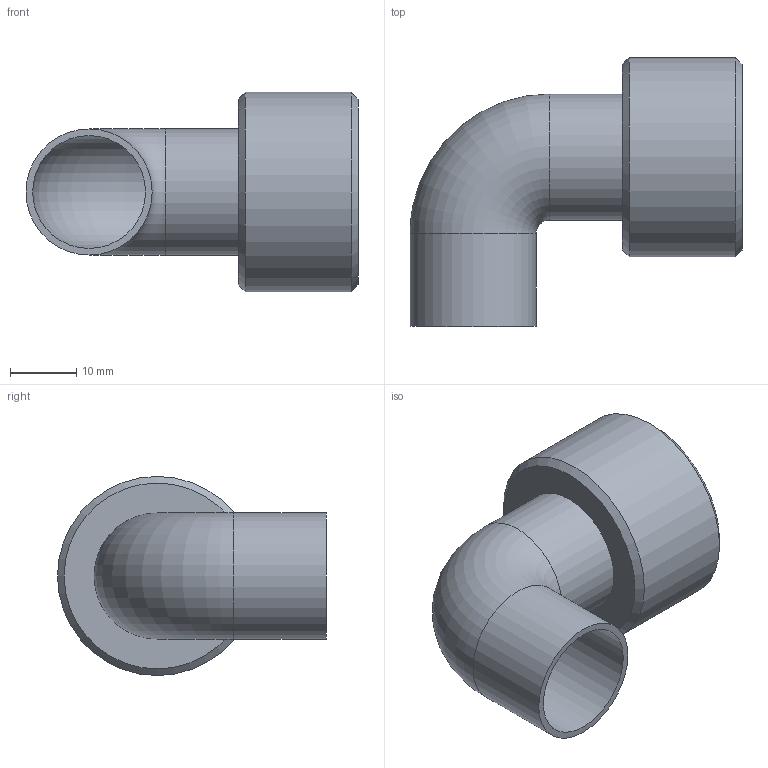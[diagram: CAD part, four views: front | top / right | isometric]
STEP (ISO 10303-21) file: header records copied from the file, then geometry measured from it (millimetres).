
FILE_DESCRIPTION( ( 'STEP AP203' ), '1' );
FILE_NAME( 'C:/Temp/Ganter_Step_05_03_2020/data/3_5/gn880_1/gn880_1_ans/gn880_1_c/Connector piece withot drain hose GN 880.1-26-C.stp', '2020-03-12T13:42:26', ( 'License CC BY-ND 4.0' ), ( 'CADENAS' ), ' ', 'PARTsolutions', ' ' );
FILE_SCHEMA( ( 'CONFIG_CONTROL_DESIGN' ) );
Length unit declared in the file: millimetre
Products named in the file (3): Connector piece withot drain hose GN 880.1-26-C; _Anschlussstueck ohne Ablassschlauch GN 880.1-26-C_a; _Anschlussstueck ohne Ablassschlauch GN 880.1-26-C_dk2
Assembly tree (2 placements, depth 2):
  Connector piece withot drain hose GN 880.1-26-C
    _Anschlussstueck ohne Ablassschlauch GN 880.1-26-C_a
    _Anschlussstueck ohne Ablassschlauch GN 880.1-26-C_dk2
Bounding box: 50 x 40.5 x 30 mm (x, y, z)
Volume: 10874.6 mm3; surface area: 11297.4 mm2
Topology: 2 solids, 2 shells, 33 faces, 54 edges, 34 vertices
Faces by surface type: plane 13, cylinder 13, torus 4, cone 3
Full cylindrical faces by diameter (mm): 11.5 x1, 12.9 x1, 13 x2, 17 x2, 19 x4, 22 x1, 24.376 x1, 30 x1
Entity records: 770 total; most frequent: DIRECTION 136, CARTESIAN_POINT 101, AXIS2_PLACEMENT_3D 68, EDGE_LOOP 64, ORIENTED_EDGE 64, FACE_OUTER_BOUND 50, ADVANCED_FACE 33, VERTEX_POINT 33
